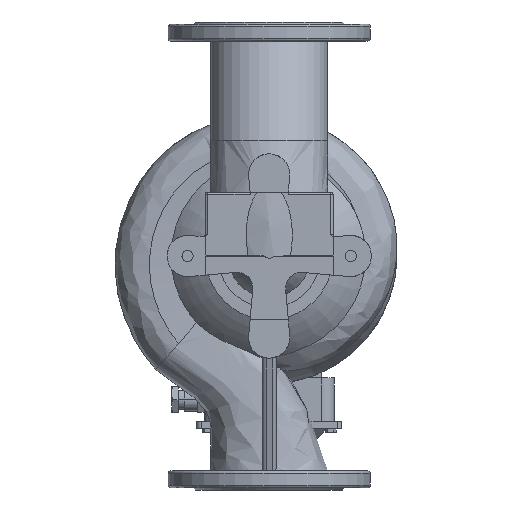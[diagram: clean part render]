
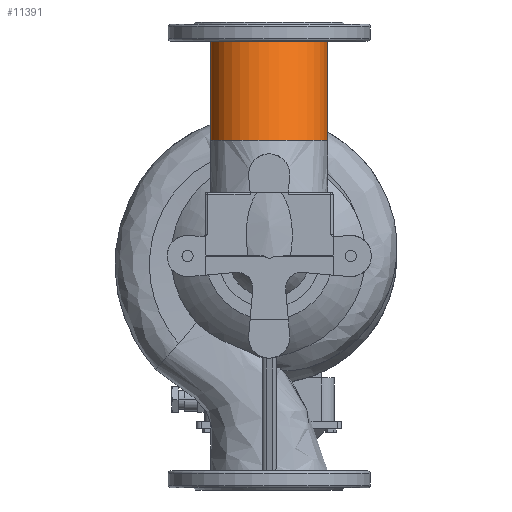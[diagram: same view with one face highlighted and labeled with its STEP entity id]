
A CAD part, front view. The second image highlights one B-rep face of the part: STEP entity #11391.
In plain terms, the highlighted free-form (B-spline) face has degree [3, 1] with [4, 2] control points.
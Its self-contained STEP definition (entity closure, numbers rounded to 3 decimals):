
#1602 = VERTEX_POINT ( 'NONE', #18420 ) ;
#2832 = AXIS2_PLACEMENT_3D ( 'NONE', #5775, #11461, #57589 ) ;
#2897 = EDGE_CURVE ( 'NONE', #1602, #18848, #25224, .T. ) ;
#3378 = CIRCLE ( 'NONE', #46849, 82.5 ) ;
#3920 = FACE_OUTER_BOUND ( 'NONE', #59500, .T. ) ;
#4588 = CARTESIAN_POINT ( 'NONE',  ( -82.5, 0., 303. ) ) ;
#5030 = ORIENTED_EDGE ( 'NONE', *, *, #43801, .F. ) ;
#5764 = ORIENTED_EDGE ( 'NONE', *, *, #62462, .T. ) ;
#5775 = CARTESIAN_POINT ( 'NONE',  ( 0., -65.302, 162.96 ) ) ;
#11391 = ADVANCED_FACE ( 'NONE', ( #3920 ), #72061, .F. ) ;
#11461 = DIRECTION ( 'NONE',  ( 0., 0., -1. ) ) ;
#14517 = CARTESIAN_POINT ( 'NONE',  ( 82.5, -230.302, 162.96 ) ) ;
#18420 = CARTESIAN_POINT ( 'NONE',  ( -82.5, -65.302, 162.96 ) ) ;
#18848 = VERTEX_POINT ( 'NONE', #60304 ) ;
#21580 = CARTESIAN_POINT ( 'NONE',  ( 0., 0., 303. ) ) ;
#23312 = CARTESIAN_POINT ( 'NONE',  ( 82.5, -65.302, 162.96 ) ) ;
#23331 = B_SPLINE_CURVE_WITH_KNOTS ( 'NONE', 1,
 ( #27255, #43196 ),
 .UNSPECIFIED., .F., .F.,
 ( 2, 2 ),
 ( 0., 1. ),
 .UNSPECIFIED. ) ;
#25224 = B_SPLINE_CURVE_WITH_KNOTS ( 'NONE', 1,
 ( #56375, #4588 ),
 .UNSPECIFIED., .F., .F.,
 ( 2, 2 ),
 ( 0., 1. ),
 .UNSPECIFIED. ) ;
#26147 = DIRECTION ( 'NONE',  ( -1., 0., 0. ) ) ;
#27255 = CARTESIAN_POINT ( 'NONE',  ( 82.5, -65.302, 162.96 ) ) ;
#27335 = CARTESIAN_POINT ( 'NONE',  ( -82.5, -65.302, 162.96 ) ) ;
#30714 = ORIENTED_EDGE ( 'NONE', *, *, #2897, .F. ) ;
#31914 = CARTESIAN_POINT ( 'NONE',  ( 82.5, -65.302, 162.96 ) ) ;
#32292 = CARTESIAN_POINT ( 'NONE',  ( -82.5, -165., 303. ) ) ;
#32955 = DIRECTION ( 'NONE',  ( 0., 0., -1. ) ) ;
#34453 = EDGE_CURVE ( 'NONE', #34504, #18848, #3378, .T. ) ;
#34504 = VERTEX_POINT ( 'NONE', #68483 ) ;
#35759 = VERTEX_POINT ( 'NONE', #23312 ) ;
#37598 = CARTESIAN_POINT ( 'NONE',  ( 82.5, 0., 303. ) ) ;
#41954 = ORIENTED_EDGE ( 'NONE', *, *, #34453, .T. ) ;
#43196 = CARTESIAN_POINT ( 'NONE',  ( 82.5, 0., 303. ) ) ;
#43801 = EDGE_CURVE ( 'NONE', #35759, #1602, #55934, .T. ) ;
#46849 = AXIS2_PLACEMENT_3D ( 'NONE', #21580, #32955, #26147 ) ;
#49711 = CARTESIAN_POINT ( 'NONE',  ( 82.5, -165., 303. ) ) ;
#54980 = CARTESIAN_POINT ( 'NONE',  ( -82.5, 0., 303. ) ) ;
#55934 = CIRCLE ( 'NONE', #2832, 82.5 ) ;
#56375 = CARTESIAN_POINT ( 'NONE',  ( -82.5, -65.302, 162.96 ) ) ;
#57589 = DIRECTION ( 'NONE',  ( -1., 0., 0. ) ) ;
#59500 = EDGE_LOOP ( 'NONE', ( #5030, #5764, #41954, #30714 ) ) ;
#60304 = CARTESIAN_POINT ( 'NONE',  ( -82.5, 0., 303. ) ) ;
#61403 = CARTESIAN_POINT ( 'NONE',  ( -82.5, -230.302, 162.96 ) ) ;
#62462 = EDGE_CURVE ( 'NONE', #35759, #34504, #23331, .T. ) ;
#68483 = CARTESIAN_POINT ( 'NONE',  ( 82.5, 0., 303. ) ) ;
#72061 =( BOUNDED_SURFACE ( )  B_SPLINE_SURFACE ( 3, 1, ( 
 ( #31914, #37598 ),
 ( #14517, #49711 ),
 ( #61403, #32292 ),
 ( #27335, #54980 ) ),
 .UNSPECIFIED., .F., .F., .F. ) 
 B_SPLINE_SURFACE_WITH_KNOTS ( ( 4, 4 ),
 ( 2, 2 ),
 ( 0.5, 1. ),
 ( 0., 1. ),
 .UNSPECIFIED. ) 
 GEOMETRIC_REPRESENTATION_ITEM ( )  RATIONAL_B_SPLINE_SURFACE ( (
 ( 1., 1.),
 ( 0.333, 0.333),
 ( 0.333, 0.333),
 ( 1., 1.) ) ) 
 REPRESENTATION_ITEM ( '' )  SURFACE ( )  );
